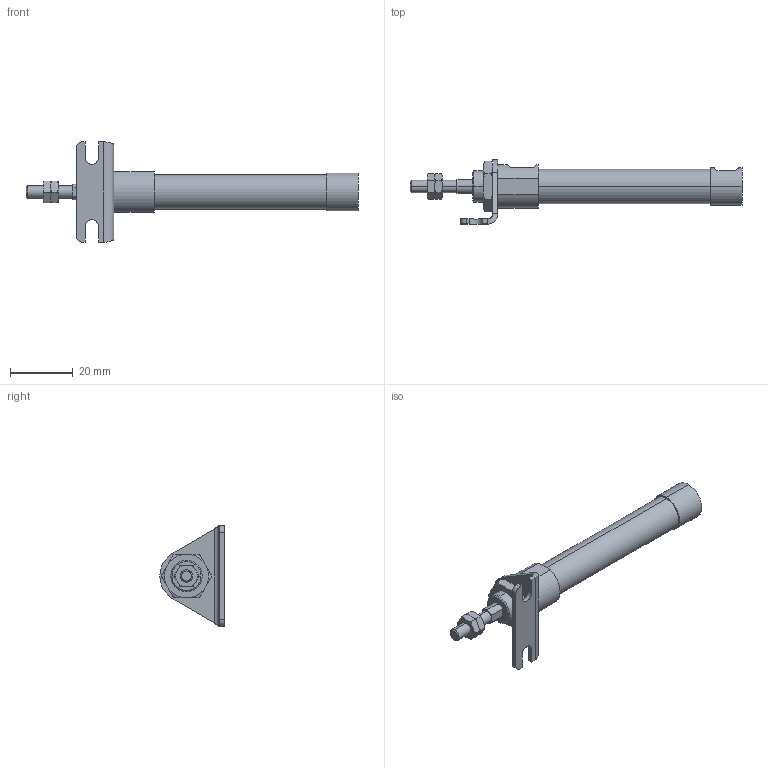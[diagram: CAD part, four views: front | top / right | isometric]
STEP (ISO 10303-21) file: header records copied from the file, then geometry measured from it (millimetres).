
FILE_DESCRIPTION (( 'STEP AP203' ), '1' );
FILE_NAME ('ZGU2-10-30-L.STEP', '2016-03-31T00:52:14', ( '' ), ( '' ), 'SwSTEP 2.0', 'SolidWorks 2014', '' );
FILE_SCHEMA (( 'CONFIG_CONTROL_DESIGN' ));
Length unit declared in the file: millimetre
Products named in the file (5): ZGU2-10-30; Z-10-L; ZGU2-10-30-L
Assembly tree (5 placements, depth 2):
  ZGU2-10-30-L
    ZGU2-10-30
    (unnamed)  x2
    (unnamed)
    Z-10-L
Bounding box: 106 x 20.5 x 32 mm (x, y, z)
Volume: 10325 mm3; surface area: 6036.6 mm2
Topology: 5 solids, 5 shells, 134 faces, 299 edges, 180 vertices
Faces by surface type: plane 56, torus 36, cylinder 32, cone 8, bspline 2
Entity records: 3960 total; most frequent: CARTESIAN_POINT 989, DIRECTION 511, ORIENTED_EDGE 494, EDGE_CURVE 247, AXIS2_PLACEMENT_3D 202, VERTEX_POINT 152, EDGE_LOOP 127, ADVANCED_FACE 112
